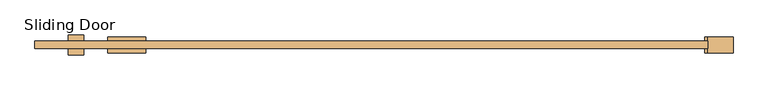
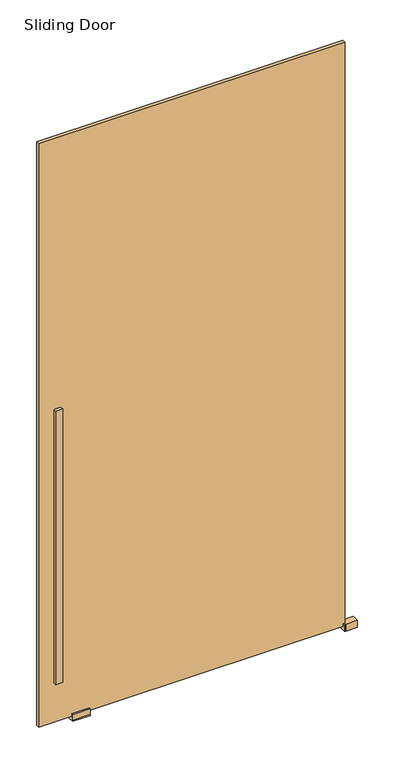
"""IFC4 building model written with IfcOpenShell, lengths in millimetres: door geometry, 2019_EN_Panel_Klein_Nature_Single-Door : Sliding Door."""

from ifc_helpers import new_model, si_unit, frame, origin, origin_with_axes, place, context, project, spatial, polyline, outline, extrude, source, transform, mapped, element, save


def sliding_door_5c46f12c(model_context):
    return source(origin(), model_context, "Body", "SweptSolid", [
        extrude(outline(polyline([(385.0000001, -5.7), (1445.0000002, -5.7), (1445.0000002, -17.7), (385.0000001, -17.7), (385.0000001, -5.7)])), frame((0.0, 0.0, 15.0), z_axis=(0.0, 0.0, 1.0), x_axis=(1.0, 0.0, 0.0)), (0.0, 0.0, 1.0), 2133.1000015),
        extrude(outline(polyline([(1445.0000002, 0.8), (1485.0000002, 0.8), (1485.0000002, -24.2), (1445.0000002, -24.2), (1445.0000002, 0.8)])), origin_with_axes(), (0.0, 0.0, 1.0), 25.0),
        extrude(outline(polyline([(-5.7, 25.0), (0.8, 25.0), (0.8, 5.0), (-0.2, 5.0), (-0.2, 0.0), (-23.2, 0.0), (-23.2, 5.0), (-24.2, 5.0), (-24.2, 25.0), (-17.7, 25.0), (-17.7, 15.0), (-5.7, 15.0), (-5.7, 25.0)])), frame((500.0000001, 0.0, 0.0), z_axis=(1.0, 0.0, 0.0), x_axis=(0.0, 1.0, 0.0)), (0.0, 0.0, 1.0), 60.0),
        extrude(outline(polyline([(1440.0000002, -24.2), (1440.0000002, 0.8), (1445.0000002, 0.8), (1445.0000002, -24.2), (1440.0000002, -24.2)])), origin_with_axes(), (0.0, 0.0, 1.0), 25.0),
        extrude(outline(polyline([(462.2500001, -5.7), (437.7500001, -5.7), (437.7500001, 4.3), (462.2500001, 4.3), (462.2500001, -5.7)])), frame((0.0, 0.0, 159.05), z_axis=(0.0, 0.0, 1.0), x_axis=(1.0, 0.0, 0.0)), (0.0, 0.0, 1.0), 1000.0),
        extrude(outline(polyline([(462.2500001, -27.7), (437.7500001, -27.7), (437.7500001, -17.7), (462.2500001, -17.7), (462.2500001, -27.7)])), frame((0.0, 0.0, 159.05), z_axis=(0.0, 0.0, 1.0), x_axis=(1.0, 0.0, 0.0)), (0.0, 0.0, 1.0), 1000.0),
    ])


if __name__ == "__main__":
    model = new_model("IFC4")
    model_context = context("Model", 3, world=origin())
    ifc_project = project(units=[si_unit("LENGTHUNIT", "METRE", prefix="MILLI")], contexts=[model_context])
    site = spatial("IfcSite", under=ifc_project)
    building = spatial("IfcBuilding", under=site)
    placement = place(None, origin())
    sliding_door_shape = sliding_door_5c46f12c(model_context)
    element("IfcDoor", 1, ObjectType="2019_EN_Panel_Klein_Nature_Single-Door : Sliding Door", at=placement, inside=building, context=model_context, shape_type="MappedRepresentation", body=[
        mapped(sliding_door_shape, transform((0.0, 0.0, 0.0), x_axis=(1.0, 0.0, 0.0), y_axis=(0.0, 1.0, 0.0), z_axis=(0.0, 0.0, 1.0))),
    ])
    save(model, "model.ifc")
